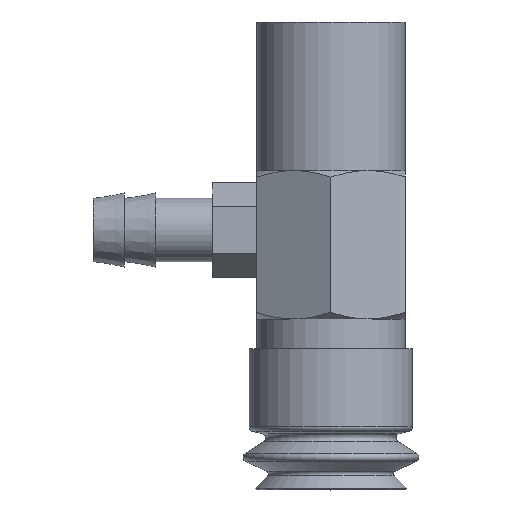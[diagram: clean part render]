
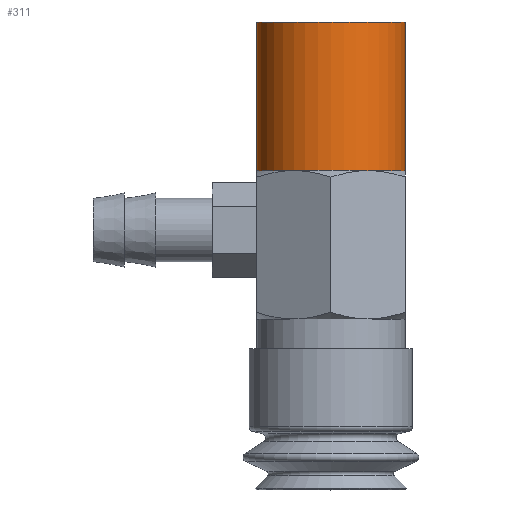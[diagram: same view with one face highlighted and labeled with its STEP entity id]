
A CAD part, top view. The second image highlights one B-rep face of the part: STEP entity #311.
In plain terms, the highlighted cylindrical face has radius 5 mm (diameter 10 mm), a full revolution.
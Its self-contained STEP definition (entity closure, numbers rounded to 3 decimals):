
#311=ADVANCED_FACE('',(#457,#458),#459,.T.);
#457=FACE_OUTER_BOUND('',#674,.T.);
#458=FACE_OUTER_BOUND('',#675,.T.);
#459=CYLINDRICAL_SURFACE('',#676,5.0);
#674=EDGE_LOOP('',(#1076));
#675=EDGE_LOOP('',(#1077,#1078,#1079,#1080,#1081,#1082));
#676=AXIS2_PLACEMENT_3D('',#1083,#1084,#1085);
#1076=ORIENTED_EDGE('',*,*,#1442,.T.);
#1077=ORIENTED_EDGE('',*,*,#1404,.F.);
#1078=ORIENTED_EDGE('',*,*,#1366,.F.);
#1079=ORIENTED_EDGE('',*,*,#1443,.F.);
#1080=ORIENTED_EDGE('',*,*,#1444,.F.);
#1081=ORIENTED_EDGE('',*,*,#1416,.F.);
#1082=ORIENTED_EDGE('',*,*,#1406,.F.);
#1083=CARTESIAN_POINT('',(0.0,10.5,0.0));
#1084=DIRECTION('',(0.0,-1.0,0.0));
#1085=DIRECTION('',(0.0,0.0,-1.0));
#1366=EDGE_CURVE('',#1534,#1535,#1536,.T.);
#1404=EDGE_CURVE('',#1535,#1605,#1606,.T.);
#1406=EDGE_CURVE('',#1605,#1608,#1609,.T.);
#1416=EDGE_CURVE('',#1608,#1622,#1626,.T.);
#1442=EDGE_CURVE('',#1667,#1667,#1668,.T.);
#1443=EDGE_CURVE('',#1669,#1534,#1670,.T.);
#1444=EDGE_CURVE('',#1622,#1669,#1671,.T.);
#1534=VERTEX_POINT('',#1808);
#1535=VERTEX_POINT('',#1809);
#1536=CIRCLE('',#1810,5.0);
#1605=VERTEX_POINT('',#1969);
#1606=CIRCLE('',#1970,5.0);
#1608=VERTEX_POINT('',#1975);
#1609=CIRCLE('',#1976,5.0);
#1622=VERTEX_POINT('',#2003);
#1626=CIRCLE('',#2016,5.0);
#1667=VERTEX_POINT('',#2079);
#1668=CIRCLE('',#2080,5.0);
#1669=VERTEX_POINT('',#2081);
#1670=CIRCLE('',#2082,5.0);
#1671=CIRCLE('',#2083,5.0);
#1808=CARTESIAN_POINT('',(-2.5,12.0,4.33));
#1809=CARTESIAN_POINT('',(-5.0,12.0,0.0));
#1810=AXIS2_PLACEMENT_3D('',#2256,#2257,#2258);
#1969=CARTESIAN_POINT('',(-2.5,12.0,-4.33));
#1970=AXIS2_PLACEMENT_3D('',#2299,#2300,#2301);
#1975=CARTESIAN_POINT('',(2.5,12.0,-4.33));
#1976=AXIS2_PLACEMENT_3D('',#2302,#2303,#2304);
#2003=CARTESIAN_POINT('',(5.0,12.0,0.0));
#2016=AXIS2_PLACEMENT_3D('',#2307,#2308,#2309);
#2079=CARTESIAN_POINT('',(0.0,22.0,-5.0));
#2080=AXIS2_PLACEMENT_3D('',#2356,#2357,#2358);
#2081=CARTESIAN_POINT('',(2.5,12.0,4.33));
#2082=AXIS2_PLACEMENT_3D('',#2359,#2360,#2361);
#2083=AXIS2_PLACEMENT_3D('',#2362,#2363,#2364);
#2256=CARTESIAN_POINT('',(0.0,12.0,0.0));
#2257=DIRECTION('',(0.0,-1.0,0.0));
#2258=DIRECTION('',(0.0,0.0,-1.0));
#2299=CARTESIAN_POINT('',(0.0,12.0,0.0));
#2300=DIRECTION('',(0.0,-1.0,0.0));
#2301=DIRECTION('',(0.0,0.0,-1.0));
#2302=CARTESIAN_POINT('',(0.0,12.0,0.0));
#2303=DIRECTION('',(0.0,-1.0,0.0));
#2304=DIRECTION('',(0.0,0.0,-1.0));
#2307=CARTESIAN_POINT('',(0.0,12.0,0.0));
#2308=DIRECTION('',(0.0,-1.0,0.0));
#2309=DIRECTION('',(0.0,0.0,-1.0));
#2356=CARTESIAN_POINT('',(0.0,22.0,0.0));
#2357=DIRECTION('',(0.0,-1.0,0.0));
#2358=DIRECTION('',(0.0,0.0,-1.0));
#2359=CARTESIAN_POINT('',(0.0,12.0,0.0));
#2360=DIRECTION('',(0.0,-1.0,0.0));
#2361=DIRECTION('',(0.0,0.0,-1.0));
#2362=CARTESIAN_POINT('',(0.0,12.0,0.0));
#2363=DIRECTION('',(0.0,-1.0,0.0));
#2364=DIRECTION('',(0.0,0.0,-1.0));
